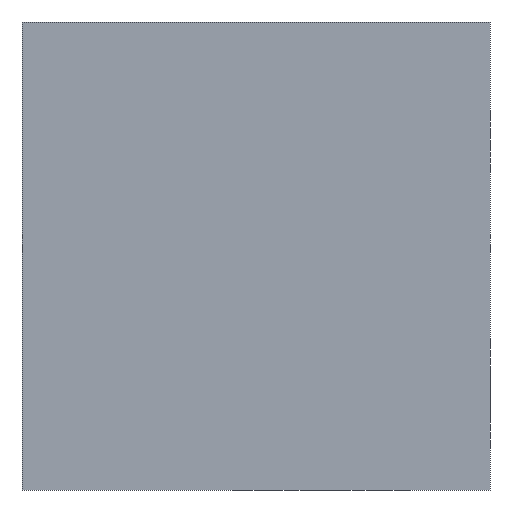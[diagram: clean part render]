
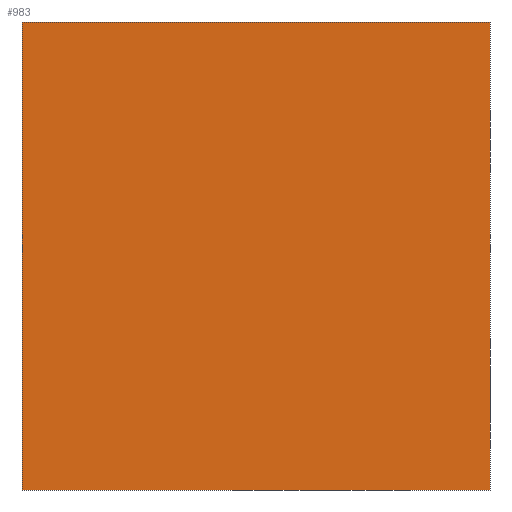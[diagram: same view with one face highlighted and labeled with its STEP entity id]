
A CAD part, front view. The second image highlights one B-rep face of the part: STEP entity #983.
In plain terms, the highlighted planar face has unit normal (0, -1, 0).
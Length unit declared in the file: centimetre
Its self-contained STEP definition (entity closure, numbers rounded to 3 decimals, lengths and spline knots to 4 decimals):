
#55 = EDGE_CURVE ( 'NONE', #262, #493, #462, .T. ) ;
#82 = DIRECTION ( 'NONE',  ( 0., 1., 0. ) ) ;
#87 = VECTOR ( 'NONE', #310, 100. ) ;
#137 = LINE ( 'NONE', #953, #296 ) ;
#164 = VERTEX_POINT ( 'NONE', #931 ) ;
#176 = VECTOR ( 'NONE', #468, 100. ) ;
#177 = CARTESIAN_POINT ( 'NONE',  ( 0., 0., 1000. ) ) ;
#219 = CARTESIAN_POINT ( 'NONE',  ( 0., 0., 0. ) ) ;
#262 = VERTEX_POINT ( 'NONE', #832 ) ;
#285 = LINE ( 'NONE', #219, #859 ) ;
#294 = DIRECTION ( 'NONE',  ( 1., 0., 0. ) ) ;
#296 = VECTOR ( 'NONE', #465, 100. ) ;
#310 = DIRECTION ( 'NONE',  ( 0., 0., -1. ) ) ;
#321 = PLANE ( 'NONE',  #899 ) ;
#326 = CARTESIAN_POINT ( 'NONE',  ( 1000., 0., 1000. ) ) ;
#335 = FACE_OUTER_BOUND ( 'NONE', #392, .T. ) ;
#388 = CARTESIAN_POINT ( 'NONE',  ( 1000., 0., 1000. ) ) ;
#392 = EDGE_LOOP ( 'NONE', ( #840, #872, #635, #430 ) ) ;
#429 = CARTESIAN_POINT ( 'NONE',  ( 0., 0., 0. ) ) ;
#430 = ORIENTED_EDGE ( 'NONE', *, *, #55, .T. ) ;
#462 = LINE ( 'NONE', #796, #176 ) ;
#465 = DIRECTION ( 'NONE',  ( 1., 0., 0. ) ) ;
#468 = DIRECTION ( 'NONE',  ( 0., 0., -1. ) ) ;
#493 = VERTEX_POINT ( 'NONE', #429 ) ;
#503 = DIRECTION ( 'NONE',  ( 0., 0., 1. ) ) ;
#635 = ORIENTED_EDGE ( 'NONE', *, *, #895, .F. ) ;
#677 = EDGE_CURVE ( 'NONE', #493, #164, #285, .T. ) ;
#745 = EDGE_CURVE ( 'NONE', #987, #164, #1027, .T. ) ;
#796 = CARTESIAN_POINT ( 'NONE',  ( 0., 0., 1000. ) ) ;
#832 = CARTESIAN_POINT ( 'NONE',  ( 0., 0., 1000. ) ) ;
#840 = ORIENTED_EDGE ( 'NONE', *, *, #677, .T. ) ;
#859 = VECTOR ( 'NONE', #294, 100. ) ;
#872 = ORIENTED_EDGE ( 'NONE', *, *, #745, .F. ) ;
#895 = EDGE_CURVE ( 'NONE', #262, #987, #137, .T. ) ;
#899 = AXIS2_PLACEMENT_3D ( 'NONE', #177, #82, #503 ) ;
#931 = CARTESIAN_POINT ( 'NONE',  ( 1000., 0., 0. ) ) ;
#953 = CARTESIAN_POINT ( 'NONE',  ( 0., 0., 1000. ) ) ;
#983 = ADVANCED_FACE ( 'NONE', ( #335 ), #321, .F. ) ;
#987 = VERTEX_POINT ( 'NONE', #326 ) ;
#1027 = LINE ( 'NONE', #388, #87 ) ;
